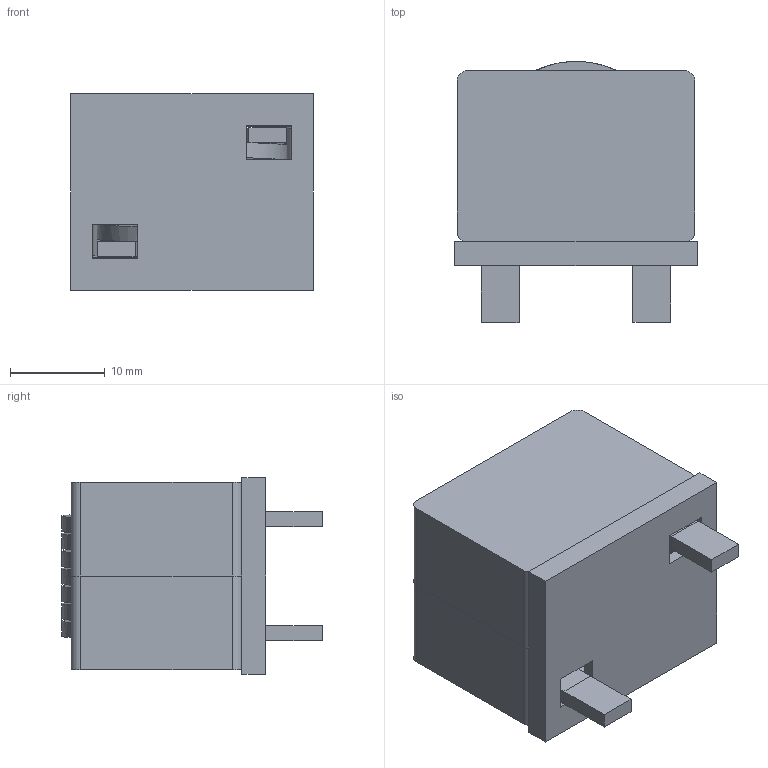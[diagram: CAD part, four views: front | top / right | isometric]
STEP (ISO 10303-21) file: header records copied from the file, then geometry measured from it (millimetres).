
FILE_DESCRIPTION (( 'STEP AP214' ), '1' );
FILE_NAME ('IHDM1008BCEB6R6MVA.STEP', '2018-12-06T16:45:10', ( '' ), ( '' ), 'SwSTEP 2.0', 'SolidWorks 2018', '' );
FILE_SCHEMA (( 'AUTOMOTIVE_DESIGN' ));
Length unit declared in the file: inch
Products named in the file (4): RK2518; IHDM1008BCEB6R6MVA; header with locate fixture_No Draft or Fillet; Coil 7 turn
Assembly tree (4 placements, depth 2):
  IHDM1008BCEB6R6MVA
    RK2518  x2
    Coil 7 turn
    header with locate fixture_No Draft or Fillet
Bounding box: 25.53 x 27.5 x 20.73 mm (x, y, z)
Volume: 8560.9 mm3; surface area: 9369.5 mm2
Topology: 4 solids, 4 shells, 123 faces, 310 edges, 188 vertices
Faces by surface type: plane 67, cylinder 32, torus 16, bspline 8
Entity records: 4744 total; most frequent: CARTESIAN_POINT 2201, ORIENTED_EDGE 436, DIRECTION 418, EDGE_CURVE 218, VECTOR 156, LINE 156, VERTEX_POINT 134, AXIS2_PLACEMENT_3D 131
